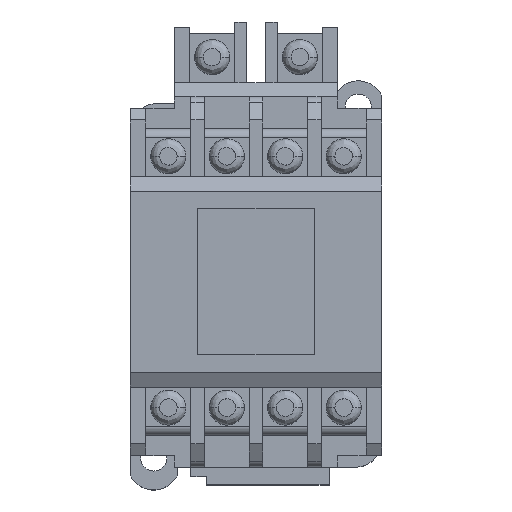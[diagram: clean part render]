
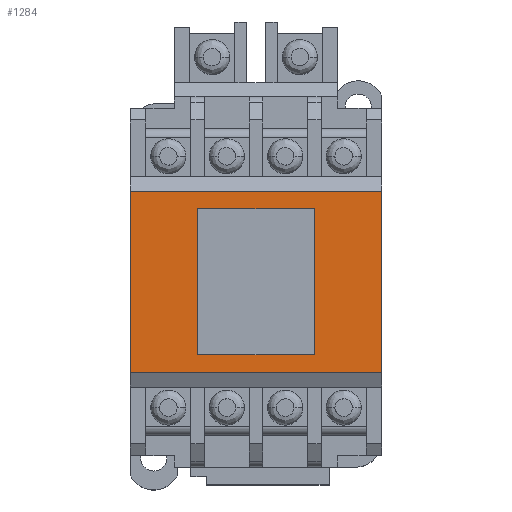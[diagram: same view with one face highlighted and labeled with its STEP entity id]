
A CAD part, top view. The second image highlights one B-rep face of the part: STEP entity #1284.
In plain terms, the highlighted planar face has unit normal (0, 0, 1) as drawn and (1, 0, 0) by its records, which use the part's own axes.
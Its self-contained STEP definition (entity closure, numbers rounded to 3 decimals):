
#1284 = ADVANCED_FACE ( 'NONE', ( #17234, #17233 ), #17218, .T. ) ;
#1288 = ORIENTED_EDGE ( 'NONE', *, *, #15201, .T. ) ;
#3396 = ORIENTED_EDGE ( 'NONE', *, *, #15125, .T. ) ;
#5132 = DIRECTION ( 'NONE',  ( 0., 0., -1. ) ) ;
#5133 = VECTOR ( 'NONE', #5132, 1000. ) ;
#5134 = CARTESIAN_POINT ( 'NONE',  ( 1.9, 15.5, 21.5 ) ) ;
#5135 = LINE ( 'NONE', #5134, #5133 ) ;
#6240 = CARTESIAN_POINT ( 'NONE',  ( 1.9, 15.5, -21.5 ) ) ;
#6247 = CARTESIAN_POINT ( 'NONE',  ( 1.9, -15.5, -21.5 ) ) ;
#6271 = VECTOR ( 'NONE', #6333, 1000. ) ;
#6272 = CARTESIAN_POINT ( 'NONE',  ( 1.9, -15.5, -21.5 ) ) ;
#6273 = LINE ( 'NONE', #6272, #6271 ) ;
#6333 = DIRECTION ( 'NONE',  ( 0., 1., 0. ) ) ;
#6518 = CARTESIAN_POINT ( 'NONE',  ( 1.9, -15.5, 21.5 ) ) ;
#6567 = CARTESIAN_POINT ( 'NONE',  ( 1.9, 15.5, 21.5 ) ) ;
#6568 = DIRECTION ( 'NONE',  ( 0., 1., 0. ) ) ;
#6569 = VECTOR ( 'NONE', #6568, 1000. ) ;
#6570 = CARTESIAN_POINT ( 'NONE',  ( 1.9, 0., 21.5 ) ) ;
#6571 = LINE ( 'NONE', #6570, #6569 ) ;
#7425 = EDGE_CURVE ( 'NONE', #17152, #17016, #7757, .T. ) ;
#7427 = ORIENTED_EDGE ( 'NONE', *, *, #7425, .T. ) ;
#7470 = ORIENTED_EDGE ( 'NONE', *, *, #15085, .T. ) ;
#7754 = DIRECTION ( 'NONE',  ( 0., 0., -1. ) ) ;
#7755 = VECTOR ( 'NONE', #7754, 1000. ) ;
#7756 = CARTESIAN_POINT ( 'NONE',  ( 1.9, -15.5, 21.5 ) ) ;
#7757 = LINE ( 'NONE', #7756, #7755 ) ;
#10723 = CARTESIAN_POINT ( 'NONE',  ( 1.9, 12.5, 10. ) ) ;
#10724 = CARTESIAN_POINT ( 'NONE',  ( 1.9, -12.5, 10. ) ) ;
#10726 = DIRECTION ( 'NONE',  ( 0., 1., 0. ) ) ;
#10727 = VECTOR ( 'NONE', #10726, 1000. ) ;
#10728 = CARTESIAN_POINT ( 'NONE',  ( 1.9, -15.5, 10. ) ) ;
#10729 = LINE ( 'NONE', #10728, #10727 ) ;
#10770 = CARTESIAN_POINT ( 'NONE',  ( 1.9, 12.5, -10. ) ) ;
#10824 = DIRECTION ( 'NONE',  ( 0., 0., -1. ) ) ;
#10825 = VECTOR ( 'NONE', #10824, 1000. ) ;
#10826 = CARTESIAN_POINT ( 'NONE',  ( 1.9, 12.5, 21.5 ) ) ;
#10827 = LINE ( 'NONE', #10826, #10825 ) ;
#10902 = DIRECTION ( 'NONE',  ( 0., 0., 1. ) ) ;
#10903 = VECTOR ( 'NONE', #10902, 1000. ) ;
#10912 = CARTESIAN_POINT ( 'NONE',  ( 1.9, -12.5, 21.5 ) ) ;
#10913 = LINE ( 'NONE', #10912, #10903 ) ;
#11054 = CARTESIAN_POINT ( 'NONE',  ( 1.9, -12.5, -10. ) ) ;
#11055 = DIRECTION ( 'NONE',  ( 0., -1., 0. ) ) ;
#11056 = VECTOR ( 'NONE', #11055, 1000. ) ;
#11057 = CARTESIAN_POINT ( 'NONE',  ( 1.9, -15.5, -10. ) ) ;
#11058 = LINE ( 'NONE', #11057, #11056 ) ;
#15085 = EDGE_CURVE ( 'NONE', #15087, #15088, #10729, .T. ) ;
#15087 = VERTEX_POINT ( 'NONE', #10724 ) ;
#15088 = VERTEX_POINT ( 'NONE', #10723 ) ;
#15121 = VERTEX_POINT ( 'NONE', #10770 ) ;
#15125 = EDGE_CURVE ( 'NONE', #15088, #15121, #10827, .T. ) ;
#15161 = EDGE_CURVE ( 'NONE', #15202, #15087, #10913, .T. ) ;
#15201 = EDGE_CURVE ( 'NONE', #15121, #15202, #11058, .T. ) ;
#15202 = VERTEX_POINT ( 'NONE', #11054 ) ;
#16623 = EDGE_CURVE ( 'NONE', #17155, #16997, #5135, .T. ) ;
#16627 = ORIENTED_EDGE ( 'NONE', *, *, #17154, .F. ) ;
#16637 = ORIENTED_EDGE ( 'NONE', *, *, #17040, .T. ) ;
#16642 = ORIENTED_EDGE ( 'NONE', *, *, #15161, .T. ) ;
#16646 = EDGE_LOOP ( 'NONE', ( #16627, #7427, #16637, #16663 ) ) ;
#16660 = EDGE_LOOP ( 'NONE', ( #1288, #16642, #7470, #3396 ) ) ;
#16663 = ORIENTED_EDGE ( 'NONE', *, *, #16623, .F. ) ;
#16997 = VERTEX_POINT ( 'NONE', #6240 ) ;
#17016 = VERTEX_POINT ( 'NONE', #6247 ) ;
#17040 = EDGE_CURVE ( 'NONE', #17016, #16997, #6273, .T. ) ;
#17152 = VERTEX_POINT ( 'NONE', #6518 ) ;
#17154 = EDGE_CURVE ( 'NONE', #17152, #17155, #6571, .T. ) ;
#17155 = VERTEX_POINT ( 'NONE', #6567 ) ;
#17215 = DIRECTION ( 'NONE',  ( 1., 0., 0. ) ) ;
#17216 = CARTESIAN_POINT ( 'NONE',  ( 1.9, -15.5, 21.5 ) ) ;
#17217 = AXIS2_PLACEMENT_3D ( 'NONE', #17216, #17215, #17274 ) ;
#17218 = PLANE ( 'NONE',  #17217 ) ;
#17233 = FACE_BOUND ( 'NONE', #16660, .T. ) ;
#17234 = FACE_OUTER_BOUND ( 'NONE', #16646, .T. ) ;
#17274 = DIRECTION ( 'NONE',  ( 0., 0., -1. ) ) ;
